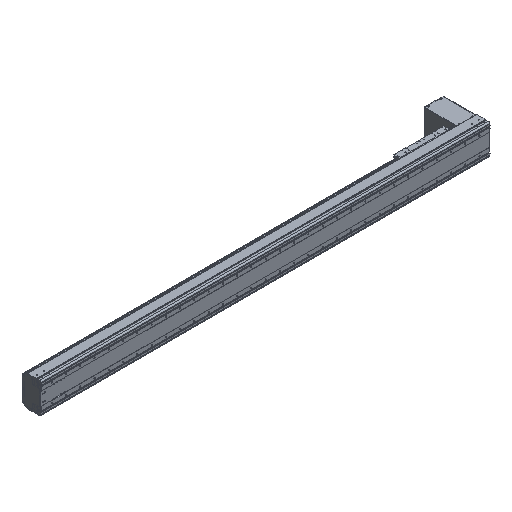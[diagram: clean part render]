
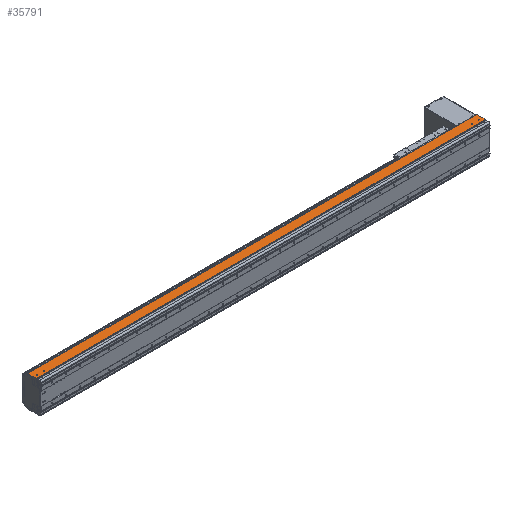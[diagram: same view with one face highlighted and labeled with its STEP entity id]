
A CAD part, isometric view. The second image highlights one B-rep face of the part: STEP entity #35791.
In plain terms, the highlighted planar face has unit normal (0, 0, 1).
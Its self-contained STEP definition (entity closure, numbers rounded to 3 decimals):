
#9545=DIRECTION('',(-1.,-0.006,-0.017));
#9546=VECTOR('',#9545,1.5);
#9547=CARTESIAN_POINT('',(1.5,94.,107.));
#9548=LINE('',#9547,#9546);
#9549=DIRECTION('',(-1.,0.,0.));
#9550=VECTOR('',#9549,3148.5);
#9551=CARTESIAN_POINT('',(0.,93.5,107.));
#9552=LINE('',#9551,#9550);
#9577=CARTESIAN_POINT('',(0.,93.992,
106.974));
#9578=CARTESIAN_POINT('',(0.,93.906,
106.974));
#9579=CARTESIAN_POINT('',(0.,93.75,
107.013));
#9580=CARTESIAN_POINT('',(0.,93.581,107.));
#9581=CARTESIAN_POINT('',(0.,93.5,107.));
#9583=CARTESIAN_POINT('',(-3123.5,54.,107.));
#9584=DIRECTION('',(0.,0.,-1.));
#9585=DIRECTION('',(1.,0.,0.));
#9586=AXIS2_PLACEMENT_3D('',#9583,#9584,#9585);
#9588=CARTESIAN_POINT('',(-3123.5,54.,107.));
#9589=DIRECTION('',(0.,0.,-1.));
#9590=DIRECTION('',(-1.,0.,0.));
#9591=AXIS2_PLACEMENT_3D('',#9588,#9589,#9590);
#9593=CARTESIAN_POINT('',(-3073.5,54.,107.));
#9594=DIRECTION('',(0.,0.,-1.));
#9595=DIRECTION('',(1.,0.,0.));
#9596=AXIS2_PLACEMENT_3D('',#9593,#9594,#9595);
#9598=CARTESIAN_POINT('',(-3073.5,54.,107.));
#9599=DIRECTION('',(0.,0.,-1.));
#9600=DIRECTION('',(-1.,0.,0.));
#9601=AXIS2_PLACEMENT_3D('',#9598,#9599,#9600);
#9603=CARTESIAN_POINT('',(-23.5,54.,107.));
#9604=DIRECTION('',(0.,0.,-1.));
#9605=DIRECTION('',(1.,0.,0.));
#9606=AXIS2_PLACEMENT_3D('',#9603,#9604,#9605);
#9608=CARTESIAN_POINT('',(-23.5,54.,107.));
#9609=DIRECTION('',(0.,0.,-1.));
#9610=DIRECTION('',(-1.,0.,0.));
#9611=AXIS2_PLACEMENT_3D('',#9608,#9609,#9610);
#9613=CARTESIAN_POINT('',(-73.5,54.,107.));
#9614=DIRECTION('',(0.,0.,-1.));
#9615=DIRECTION('',(1.,0.,0.));
#9616=AXIS2_PLACEMENT_3D('',#9613,#9614,#9615);
#9618=CARTESIAN_POINT('',(-73.5,54.,107.));
#9619=DIRECTION('',(0.,0.,-1.));
#9620=DIRECTION('',(-1.,0.,0.));
#9621=AXIS2_PLACEMENT_3D('',#9618,#9619,#9620);
#9623=DIRECTION('',(0.,-1.,0.));
#9624=VECTOR('',#9623,2.55);
#9625=CARTESIAN_POINT('',(-3146.5,34.65,107.));
#9626=LINE('',#9625,#9624);
#9627=DIRECTION('',(0.,-1.,0.));
#9628=VECTOR('',#9627,58.85);
#9629=CARTESIAN_POINT('',(-3148.5,93.5,107.));
#9630=LINE('',#9629,#9628);
#9631=DIRECTION('',(0.,1.,0.));
#9632=VECTOR('',#9631,58.35);
#9633=CARTESIAN_POINT('',(1.5,35.65,107.));
#9634=LINE('',#9633,#9632);
#9635=DIRECTION('',(0.,1.,0.));
#9636=VECTOR('',#9635,3.55);
#9637=CARTESIAN_POINT('',(0.,32.1,107.));
#9638=LINE('',#9637,#9636);
#9639=DIRECTION('',(1.,0.,0.));
#9640=VECTOR('',#9639,3146.5);
#9641=CARTESIAN_POINT('',(-3146.5,32.1,107.));
#9642=LINE('',#9641,#9640);
#9751=DIRECTION('',(1.,0.,0.));
#9752=VECTOR('',#9751,2.);
#9753=CARTESIAN_POINT('',(-3148.5,34.65,107.));
#9754=LINE('',#9753,#9752);
#9775=DIRECTION('',(1.,0.,0.));
#9776=VECTOR('',#9775,1.5);
#9777=CARTESIAN_POINT('',(0.,35.65,107.));
#9778=LINE('',#9777,#9776);
#19892=CARTESIAN_POINT('',(1.5,94.,107.));
#19893=VERTEX_POINT('',#19892);
#19894=CARTESIAN_POINT('',(1.5,35.65,107.));
#19895=VERTEX_POINT('',#19894);
#19964=CARTESIAN_POINT('',(-3148.5,34.65,107.));
#19965=VERTEX_POINT('',#19964);
#19966=CARTESIAN_POINT('',(-3148.5,93.5,107.));
#19967=VERTEX_POINT('',#19966);
#20192=CARTESIAN_POINT('',(-3146.5,32.1,107.));
#20193=VERTEX_POINT('',#20192);
#20243=CARTESIAN_POINT('',(0.,32.1,107.));
#20245=VERTEX_POINT('',#20243);
#20958=CARTESIAN_POINT('',(-3121.,54.,107.));
#20959=CARTESIAN_POINT('',(-3126.,54.,107.));
#20960=VERTEX_POINT('',#20958);
#20961=VERTEX_POINT('',#20959);
#20962=CARTESIAN_POINT('',(-3071.,54.,107.));
#20963=CARTESIAN_POINT('',(-3076.,54.,107.));
#20964=VERTEX_POINT('',#20962);
#20965=VERTEX_POINT('',#20963);
#20966=CARTESIAN_POINT('',(-21.,54.,107.));
#20967=CARTESIAN_POINT('',(-26.,54.,107.));
#20968=VERTEX_POINT('',#20966);
#20969=VERTEX_POINT('',#20967);
#20970=CARTESIAN_POINT('',(-71.,54.,107.));
#20971=CARTESIAN_POINT('',(-76.,54.,107.));
#20972=VERTEX_POINT('',#20970);
#20973=VERTEX_POINT('',#20971);
#23584=CARTESIAN_POINT('',(0.,35.65,107.));
#23585=VERTEX_POINT('',#23584);
#23718=VERTEX_POINT('',#9577);
#23719=VERTEX_POINT('',#9581);
#24175=CARTESIAN_POINT('',(-3146.5,34.65,107.));
#24176=VERTEX_POINT('',#24175);
#35747=CARTESIAN_POINT('',(-1573.25,62.8,107.));
#35748=DIRECTION('',(0.,0.,1.));
#35749=DIRECTION('',(0.,-1.,0.));
#35750=AXIS2_PLACEMENT_3D('',#35747,#35748,#35749);
#35751=PLANE('',#35750);
#35752=ORIENTED_EDGE('',*,*,#26072,.F.);
#35754=ORIENTED_EDGE('',*,*,#35753,.F.);
#35755=ORIENTED_EDGE('',*,*,#28346,.F.);
#35756=ORIENTED_EDGE('',*,*,#35733,.F.);
#35757=ORIENTED_EDGE('',*,*,#35742,.F.);
#35758=ORIENTED_EDGE('',*,*,#35723,.F.);
#35759=ORIENTED_EDGE('',*,*,#25000,.F.);
#35761=ORIENTED_EDGE('',*,*,#35760,.F.);
#35762=ORIENTED_EDGE('',*,*,#26829,.F.);
#35764=ORIENTED_EDGE('',*,*,#35763,.F.);
#35765=EDGE_LOOP('',(#35752,#35754,#35755,#35756,#35757,#35758,#35759,#35761,
#35762,#35764));
#35766=FACE_OUTER_BOUND('',#35765,.F.);
#35768=ORIENTED_EDGE('',*,*,#35767,.F.);
#35770=ORIENTED_EDGE('',*,*,#35769,.F.);
#35771=EDGE_LOOP('',(#35768,#35770));
#35772=FACE_BOUND('',#35771,.F.);
#35774=ORIENTED_EDGE('',*,*,#35773,.F.);
#35776=ORIENTED_EDGE('',*,*,#35775,.F.);
#35777=EDGE_LOOP('',(#35774,#35776));
#35778=FACE_BOUND('',#35777,.F.);
#35780=ORIENTED_EDGE('',*,*,#35779,.F.);
#35782=ORIENTED_EDGE('',*,*,#35781,.F.);
#35783=EDGE_LOOP('',(#35780,#35782));
#35784=FACE_BOUND('',#35783,.F.);
#35786=ORIENTED_EDGE('',*,*,#35785,.F.);
#35788=ORIENTED_EDGE('',*,*,#35787,.F.);
#35789=EDGE_LOOP('',(#35786,#35788));
#35790=FACE_BOUND('',#35789,.F.);
#35791=ADVANCED_FACE('',(#35766,#35772,#35778,#35784,#35790),#35751,.T.);
#9582=B_SPLINE_CURVE_WITH_KNOTS('',3,(#9577,#9578,#9579,#9580,#9581),
.UNSPECIFIED.,.F.,.F.,(4,1,4),(0.,0.5,1.),.UNSPECIFIED.);
#9587=CIRCLE('',#9586,2.5);
#9592=CIRCLE('',#9591,2.5);
#9597=CIRCLE('',#9596,2.5);
#9602=CIRCLE('',#9601,2.5);
#9607=CIRCLE('',#9606,2.5);
#9612=CIRCLE('',#9611,2.5);
#9617=CIRCLE('',#9616,2.5);
#9622=CIRCLE('',#9621,2.5);
#25000=EDGE_CURVE('',#19895,#19893,#9634,.T.);
#26072=EDGE_CURVE('',#24176,#20193,#9626,.T.);
#26829=EDGE_CURVE('',#20245,#23585,#9638,.T.);
#28346=EDGE_CURVE('',#19967,#19965,#9630,.T.);
#35723=EDGE_CURVE('',#19893,#23718,#9548,.T.);
#35733=EDGE_CURVE('',#23719,#19967,#9552,.T.);
#35742=EDGE_CURVE('',#23718,#23719,#9582,.T.);
#35753=EDGE_CURVE('',#19965,#24176,#9754,.T.);
#35760=EDGE_CURVE('',#23585,#19895,#9778,.T.);
#35763=EDGE_CURVE('',#20193,#20245,#9642,.T.);
#35767=EDGE_CURVE('',#20964,#20965,#9597,.T.);
#35769=EDGE_CURVE('',#20965,#20964,#9602,.T.);
#35773=EDGE_CURVE('',#20968,#20969,#9607,.T.);
#35775=EDGE_CURVE('',#20969,#20968,#9612,.T.);
#35779=EDGE_CURVE('',#20972,#20973,#9617,.T.);
#35781=EDGE_CURVE('',#20973,#20972,#9622,.T.);
#35785=EDGE_CURVE('',#20960,#20961,#9587,.T.);
#35787=EDGE_CURVE('',#20961,#20960,#9592,.T.);
